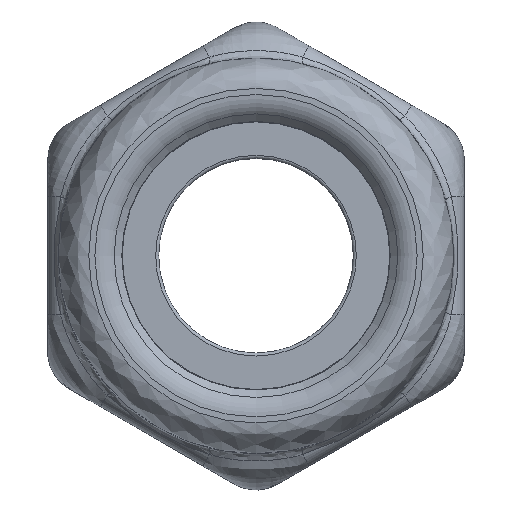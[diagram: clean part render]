
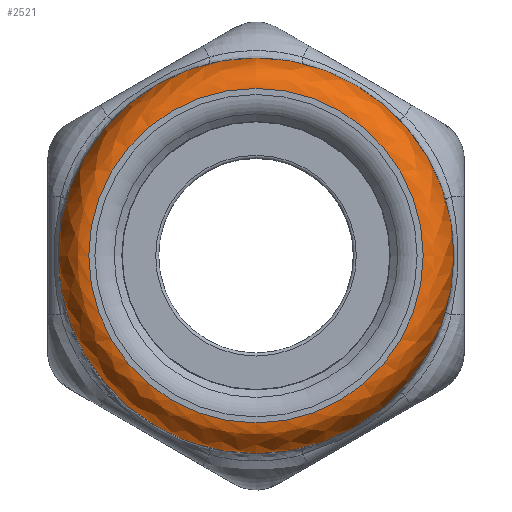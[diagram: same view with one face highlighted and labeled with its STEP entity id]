
A CAD part, top view. The second image highlights one B-rep face of the part: STEP entity #2521.
In plain terms, the highlighted free-form (B-spline) face has degree [2, 2] with [3, 9] control points.
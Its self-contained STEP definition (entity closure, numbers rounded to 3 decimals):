
#56=ELLIPSE('',#2691,0.75,0.5);
#59=(
BOUNDED_SURFACE()
B_SPLINE_SURFACE(2,2,((#14677,#14678,#14679,#14680,#14681,#14682,#14683,
#14684,#14685),(#14686,#14687,#14688,#14689,#14690,#14691,#14692,#14693,
#14694),(#14695,#14696,#14697,#14698,#14699,#14700,#14701,#14702,#14703)),
 .UNSPECIFIED.,.F.,.T.,.F.)
B_SPLINE_SURFACE_WITH_KNOTS((3,3),(3,2,2,2,3),(-1.571,0.),(0.,
1.571,3.142,4.712,6.283),
 .UNSPECIFIED.)
GEOMETRIC_REPRESENTATION_ITEM()
RATIONAL_B_SPLINE_SURFACE(((1.,0.707,1.,0.707,1.,
0.707,1.,0.707,1.),(0.707,0.5,0.707,
0.5,0.707,0.5,0.707,0.5,0.707),(1.,
0.707,1.,0.707,1.,0.707,1.,0.707,
1.)))
REPRESENTATION_ITEM('')
SURFACE()
);
#203=FACE_OUTER_BOUND('',#303,.T.);
#303=EDGE_LOOP('',(#2196,#2197,#2198,#2199,#2200));
#391=CIRCLE('',#2657,2.75);
#415=CIRCLE('',#2689,3.25);
#416=CIRCLE('',#2690,3.25);
#870=VERTEX_POINT('',#5023);
#1076=VERTEX_POINT('',#14672);
#1077=VERTEX_POINT('',#14674);
#1264=EDGE_CURVE('',#870,#870,#391,.T.);
#1490=EDGE_CURVE('',#1076,#1077,#415,.T.);
#1491=EDGE_CURVE('',#1077,#1076,#416,.T.);
#1492=EDGE_CURVE('',#1077,#870,#56,.T.);
#2196=ORIENTED_EDGE('',*,*,#1492,.T.);
#2197=ORIENTED_EDGE('',*,*,#1264,.T.);
#2198=ORIENTED_EDGE('',*,*,#1492,.F.);
#2199=ORIENTED_EDGE('',*,*,#1490,.F.);
#2200=ORIENTED_EDGE('',*,*,#1491,.F.);
#2521=ADVANCED_FACE('',(#203),#59,.T.);
#2657=AXIS2_PLACEMENT_3D('',#5024,#2965,#2966);
#2689=AXIS2_PLACEMENT_3D('',#14675,#3030,#3031);
#2690=AXIS2_PLACEMENT_3D('',#14676,#3032,#3033);
#2691=AXIS2_PLACEMENT_3D('',#14704,#3034,#3035);
#2965=DIRECTION('center_axis',(0.,0.,-1.));
#2966=DIRECTION('ref_axis',(1.,0.,0.));
#3030=DIRECTION('center_axis',(0.,0.,-1.));
#3031=DIRECTION('ref_axis',(1.,0.,0.));
#3032=DIRECTION('center_axis',(0.,0.,-1.));
#3033=DIRECTION('ref_axis',(1.,0.,0.));
#3034=DIRECTION('center_axis',(1.,0.,0.));
#3035=DIRECTION('ref_axis',(0.,0.,1.));
#5023=CARTESIAN_POINT('',(0.,2.75,4.87));
#5024=CARTESIAN_POINT('Origin',(0.,0.,4.87));
#14672=CARTESIAN_POINT('',(0.,-3.25,4.12));
#14674=CARTESIAN_POINT('',(0.,3.25,4.12));
#14675=CARTESIAN_POINT('Origin',(0.,0.,4.12));
#14676=CARTESIAN_POINT('Origin',(0.,0.,4.12));
#14677=CARTESIAN_POINT('Ctrl Pts',(0.,3.25,4.12));
#14678=CARTESIAN_POINT('Ctrl Pts',(3.25,3.25,4.12));
#14679=CARTESIAN_POINT('Ctrl Pts',(3.25,0.,4.12));
#14680=CARTESIAN_POINT('Ctrl Pts',(3.25,-3.25,4.12));
#14681=CARTESIAN_POINT('Ctrl Pts',(0.,-3.25,4.12));
#14682=CARTESIAN_POINT('Ctrl Pts',(-3.25,-3.25,4.12));
#14683=CARTESIAN_POINT('Ctrl Pts',(-3.25,0.,4.12));
#14684=CARTESIAN_POINT('Ctrl Pts',(-3.25,3.25,4.12));
#14685=CARTESIAN_POINT('Ctrl Pts',(0.,3.25,4.12));
#14686=CARTESIAN_POINT('Ctrl Pts',(0.,3.25,4.87));
#14687=CARTESIAN_POINT('Ctrl Pts',(3.25,3.25,4.87));
#14688=CARTESIAN_POINT('Ctrl Pts',(3.25,0.,4.87));
#14689=CARTESIAN_POINT('Ctrl Pts',(3.25,-3.25,4.87));
#14690=CARTESIAN_POINT('Ctrl Pts',(0.,-3.25,4.87));
#14691=CARTESIAN_POINT('Ctrl Pts',(-3.25,-3.25,4.87));
#14692=CARTESIAN_POINT('Ctrl Pts',(-3.25,0.,4.87));
#14693=CARTESIAN_POINT('Ctrl Pts',(-3.25,3.25,4.87));
#14694=CARTESIAN_POINT('Ctrl Pts',(0.,3.25,4.87));
#14695=CARTESIAN_POINT('Ctrl Pts',(0.,2.75,4.87));
#14696=CARTESIAN_POINT('Ctrl Pts',(2.75,2.75,4.87));
#14697=CARTESIAN_POINT('Ctrl Pts',(2.75,0.,4.87));
#14698=CARTESIAN_POINT('Ctrl Pts',(2.75,-2.75,4.87));
#14699=CARTESIAN_POINT('Ctrl Pts',(0.,-2.75,4.87));
#14700=CARTESIAN_POINT('Ctrl Pts',(-2.75,-2.75,4.87));
#14701=CARTESIAN_POINT('Ctrl Pts',(-2.75,0.,4.87));
#14702=CARTESIAN_POINT('Ctrl Pts',(-2.75,2.75,4.87));
#14703=CARTESIAN_POINT('Ctrl Pts',(0.,2.75,4.87));
#14704=CARTESIAN_POINT('Origin',(0.,2.75,4.12));
